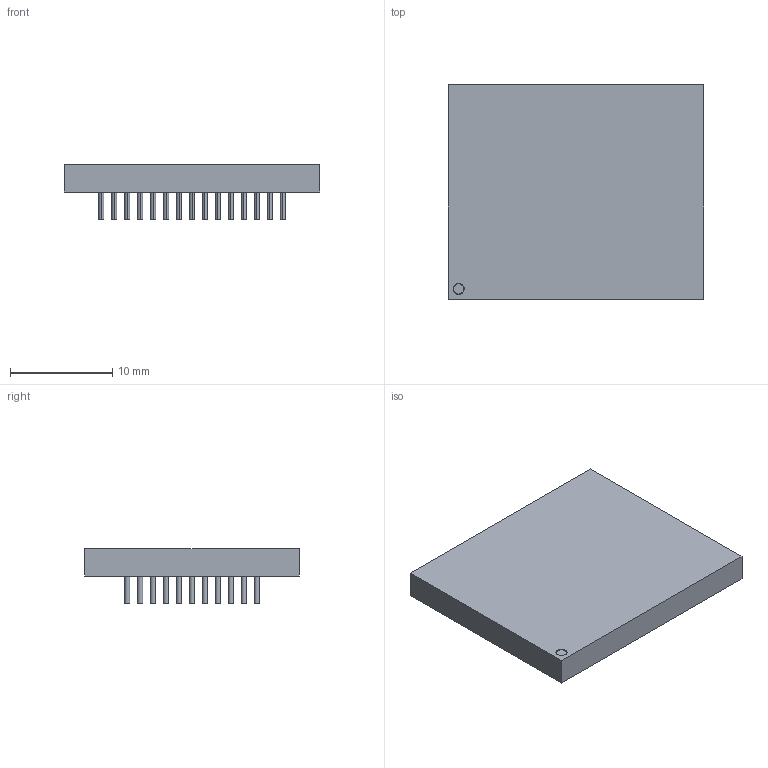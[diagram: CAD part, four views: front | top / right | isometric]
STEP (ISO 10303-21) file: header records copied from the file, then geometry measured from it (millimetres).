
FILE_DESCRIPTION (( 'STEP AP214' ), '1' );
FILE_NAME ( 'CGA165CP127_11X15_2500X2100X538L51.STEP', '2021-10-06T06:48:59', ( '' ), ( '' ), '', '©2017 PCB Libraries, Inc.', '' );
FILE_SCHEMA (( 'AUTOMOTIVE_DESIGN' ));
Length unit declared in the file: millimetre
Products named in the file (1): CGA165CP127_11X15_2500X2100X538L51
Bounding box: 25 x 21 x 5.38 mm (x, y, z)
Volume: 1502.9 mm3; surface area: 2076.1 mm2
Topology: 166 solids, 166 shells, 669 faces, 1008 edges, 672 vertices
Faces by surface type: plane 337, cylinder 330, torus 2
Entity records: 18454 total; most frequent: DIRECTION 3014, CARTESIAN_POINT 2350, ORIENTED_EDGE 2016, AXIS2_PLACEMENT_3D 1336, EDGE_CURVE 1008, STYLED_ITEM 836, PRESENTATION_LAYER_ASSIGNMENT 836, MECHANICAL_DESIGN_GEOMETRIC_PRESENTATION_REPRESENTATION 836
